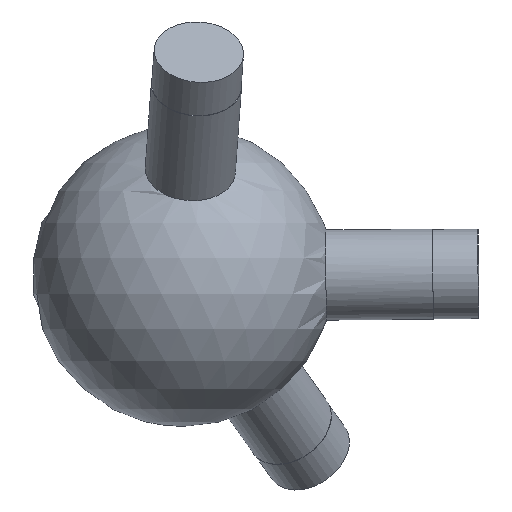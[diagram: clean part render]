
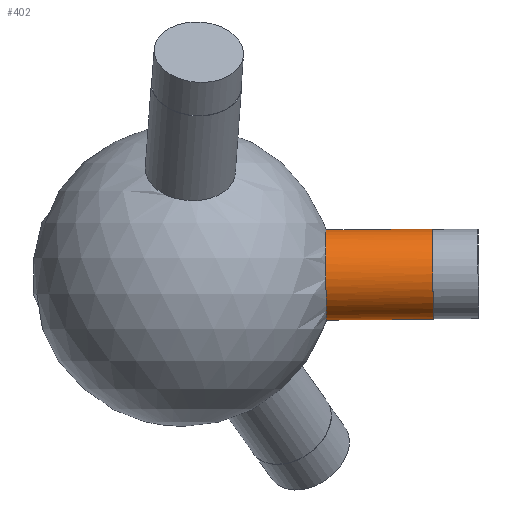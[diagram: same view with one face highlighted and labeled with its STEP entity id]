
A CAD part, front view. The second image highlights one B-rep face of the part: STEP entity #402.
In plain terms, the highlighted cylindrical face has radius 6 mm (diameter 12 mm), a full revolution.
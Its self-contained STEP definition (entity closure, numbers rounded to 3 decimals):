
#22 = VERTEX_POINT('',#23);
#23 = CARTESIAN_POINT('',(19.035,0.,
    6.138));
#33 = SPHERICAL_SURFACE('',#34,20.);
#34 = AXIS2_PLACEMENT_3D('',#35,#36,#37);
#35 = CARTESIAN_POINT('',(0.,0.,0.));
#36 = DIRECTION('',(0.,0.,1.));
#37 = DIRECTION('',(1.,0.,-0.));
#53 = EDGE_CURVE('',#54,#22,#56,.T.);
#54 = VERTEX_POINT('',#55);
#55 = CARTESIAN_POINT('',(19.123,0.,
    -5.859));
#56 = SURFACE_CURVE('',#57,(#62,#96),.PCURVE_S1.);
#57 = CIRCLE('',#58,6.);
#58 = AXIS2_PLACEMENT_3D('',#59,#60,#61);
#59 = CARTESIAN_POINT('',(19.078,-0.128,0.14
    ));
#60 = DIRECTION('',(1.,-0.007,
    0.007));
#61 = DIRECTION('',(-0.007,0.,
    1.));
#62 = PCURVE('',#33,#63);
#63 = DEFINITIONAL_REPRESENTATION('',(#64),#95);
#64 = B_SPLINE_CURVE_WITH_KNOTS('',8,(#65,#66,#67,#68,#69,#70,#71,#72,
    #73,#74,#75,#76,#77,#78,#79,#80,#81,#82,#83,#84,#85,#86,#87,#88,#89,
    #90,#91,#92,#93,#94),.UNSPECIFIED.,.F.,.F.,(9,7,7,7,9),(
    3.163,3.938,5.1,5.681,
    6.262),.UNSPECIFIED.);
#65 = CARTESIAN_POINT('',(0.,-0.297));
#66 = CARTESIAN_POINT('',(0.03,-0.297));
#67 = CARTESIAN_POINT('',(0.061,-0.293));
#68 = CARTESIAN_POINT('',(0.09,-0.285));
#69 = CARTESIAN_POINT('',(0.119,-0.275));
#70 = CARTESIAN_POINT('',(0.146,-0.261));
#71 = CARTESIAN_POINT('',(0.171,-0.244));
#72 = CARTESIAN_POINT('',(0.194,-0.225));
#73 = CARTESIAN_POINT('',(0.244,-0.172));
#74 = CARTESIAN_POINT('',(0.269,-0.136));
#75 = CARTESIAN_POINT('',(0.288,-0.095));
#76 = CARTESIAN_POINT('',(0.299,-0.052));
#77 = CARTESIAN_POINT('',(0.304,-0.008));
#78 = CARTESIAN_POINT('',(0.302,0.037));
#79 = CARTESIAN_POINT('',(0.293,0.08));
#80 = CARTESIAN_POINT('',(0.269,0.141));
#81 = CARTESIAN_POINT('',(0.259,0.161));
#82 = CARTESIAN_POINT('',(0.248,0.18));
#83 = CARTESIAN_POINT('',(0.235,0.197));
#84 = CARTESIAN_POINT('',(0.221,0.214));
#85 = CARTESIAN_POINT('',(0.205,0.23));
#86 = CARTESIAN_POINT('',(0.188,0.244));
#87 = CARTESIAN_POINT('',(0.152,0.27));
#88 = CARTESIAN_POINT('',(0.132,0.281));
#89 = CARTESIAN_POINT('',(0.112,0.291));
#90 = CARTESIAN_POINT('',(0.09,0.299));
#91 = CARTESIAN_POINT('',(0.068,0.305));
#92 = CARTESIAN_POINT('',(0.046,0.309));
#93 = CARTESIAN_POINT('',(0.023,0.311));
#94 = CARTESIAN_POINT('',(0.,0.312));
#95 = ( GEOMETRIC_REPRESENTATION_CONTEXT(2) 
PARAMETRIC_REPRESENTATION_CONTEXT() REPRESENTATION_CONTEXT('2D SPACE',''
  ) );
#96 = PCURVE('',#97,#102);
#97 = CYLINDRICAL_SURFACE('',#98,6.);
#98 = AXIS2_PLACEMENT_3D('',#99,#100,#101);
#99 = CARTESIAN_POINT('',(0.,0.,0.));
#100 = DIRECTION('',(1.,-0.007,
    0.007));
#101 = DIRECTION('',(-0.007,0.,
    1.));
#102 = DEFINITIONAL_REPRESENTATION('',(#103),#107);
#103 = LINE('',#104,#105);
#104 = CARTESIAN_POINT('',(0.,19.079));
#105 = VECTOR('',#106,1.);
#106 = DIRECTION('',(1.,0.));
#107 = ( GEOMETRIC_REPRESENTATION_CONTEXT(2) 
PARAMETRIC_REPRESENTATION_CONTEXT() REPRESENTATION_CONTEXT('2D SPACE',''
  ) );
#134 = EDGE_CURVE('',#135,#54,#137,.T.);
#135 = VERTEX_POINT('',#136);
#136 = CARTESIAN_POINT('',(19.034,-0.128,6.14
    ));
#137 = SURFACE_CURVE('',#138,(#143,#177),.PCURVE_S1.);
#138 = CIRCLE('',#139,6.);
#139 = AXIS2_PLACEMENT_3D('',#140,#141,#142);
#140 = CARTESIAN_POINT('',(19.078,-0.128,
    0.14));
#141 = DIRECTION('',(1.,-0.007,
    0.007));
#142 = DIRECTION('',(-0.007,0.,
    1.));
#143 = PCURVE('',#33,#144);
#144 = DEFINITIONAL_REPRESENTATION('',(#145),#176);
#145 = B_SPLINE_CURVE_WITH_KNOTS('',8,(#146,#147,#148,#149,#150,#151,
    #152,#153,#154,#155,#156,#157,#158,#159,#160,#161,#162,#163,#164,
    #165,#166,#167,#168,#169,#170,#171,#172,#173,#174,#175),
  .UNSPECIFIED.,.F.,.F.,(9,7,7,7,9),(0.,0.791,1.977,
    2.57,3.163),.UNSPECIFIED.);
#146 = CARTESIAN_POINT('',(6.276,0.312));
#147 = CARTESIAN_POINT('',(6.245,0.312));
#148 = CARTESIAN_POINT('',(6.214,0.308));
#149 = CARTESIAN_POINT('',(6.184,0.301));
#150 = CARTESIAN_POINT('',(6.154,0.291));
#151 = CARTESIAN_POINT('',(6.126,0.277));
#152 = CARTESIAN_POINT('',(6.1,0.261));
#153 = CARTESIAN_POINT('',(6.077,0.241));
#154 = CARTESIAN_POINT('',(6.025,0.187));
#155 = CARTESIAN_POINT('',(6.,0.15));
#156 = CARTESIAN_POINT('',(5.981,0.108));
#157 = CARTESIAN_POINT('',(5.969,0.064));
#158 = CARTESIAN_POINT('',(5.965,0.019));
#159 = CARTESIAN_POINT('',(5.968,-0.027));
#160 = CARTESIAN_POINT('',(5.978,-0.071));
#161 = CARTESIAN_POINT('',(6.004,-0.132));
#162 = CARTESIAN_POINT('',(6.014,-0.152));
#163 = CARTESIAN_POINT('',(6.026,-0.171));
#164 = CARTESIAN_POINT('',(6.04,-0.189));
#165 = CARTESIAN_POINT('',(6.055,-0.206));
#166 = CARTESIAN_POINT('',(6.071,-0.221));
#167 = CARTESIAN_POINT('',(6.089,-0.235));
#168 = CARTESIAN_POINT('',(6.127,-0.26));
#169 = CARTESIAN_POINT('',(6.148,-0.271));
#170 = CARTESIAN_POINT('',(6.169,-0.28));
#171 = CARTESIAN_POINT('',(6.191,-0.287));
#172 = CARTESIAN_POINT('',(6.214,-0.293));
#173 = CARTESIAN_POINT('',(6.237,-0.296));
#174 = CARTESIAN_POINT('',(6.26,-0.298));
#175 = CARTESIAN_POINT('',(6.283,-0.297));
#176 = ( GEOMETRIC_REPRESENTATION_CONTEXT(2) 
PARAMETRIC_REPRESENTATION_CONTEXT() REPRESENTATION_CONTEXT('2D SPACE',''
  ) );
#177 = PCURVE('',#97,#178);
#178 = DEFINITIONAL_REPRESENTATION('',(#179),#183);
#179 = LINE('',#180,#181);
#180 = CARTESIAN_POINT('',(0.,19.079));
#181 = VECTOR('',#182,1.);
#182 = DIRECTION('',(1.,0.));
#183 = ( GEOMETRIC_REPRESENTATION_CONTEXT(2) 
PARAMETRIC_REPRESENTATION_CONTEXT() REPRESENTATION_CONTEXT('2D SPACE',''
  ) );
#185 = EDGE_CURVE('',#22,#135,#186,.T.);
#186 = SURFACE_CURVE('',#187,(#192,#202),.PCURVE_S1.);
#187 = CIRCLE('',#188,6.);
#188 = AXIS2_PLACEMENT_3D('',#189,#190,#191);
#189 = CARTESIAN_POINT('',(19.078,-0.128,
    0.14));
#190 = DIRECTION('',(1.,-0.007,
    0.007));
#191 = DIRECTION('',(-0.007,0.,
    1.));
#192 = PCURVE('',#33,#193);
#193 = DEFINITIONAL_REPRESENTATION('',(#194),#201);
#194 = B_SPLINE_CURVE_WITH_KNOTS('',5,(#195,#196,#197,#198,#199,#200),
  .UNSPECIFIED.,.F.,.F.,(6,6),(6.262,6.283),
  .PIECEWISE_BEZIER_KNOTS.);
#195 = CARTESIAN_POINT('',(6.283,0.312));
#196 = CARTESIAN_POINT('',(6.282,0.312));
#197 = CARTESIAN_POINT('',(6.281,0.312));
#198 = CARTESIAN_POINT('',(6.279,0.312));
#199 = CARTESIAN_POINT('',(6.278,0.312));
#200 = CARTESIAN_POINT('',(6.276,0.312));
#201 = ( GEOMETRIC_REPRESENTATION_CONTEXT(2) 
PARAMETRIC_REPRESENTATION_CONTEXT() REPRESENTATION_CONTEXT('2D SPACE',''
  ) );
#202 = PCURVE('',#97,#203);
#203 = DEFINITIONAL_REPRESENTATION('',(#204),#208);
#204 = LINE('',#205,#206);
#205 = CARTESIAN_POINT('',(0.,19.079));
#206 = VECTOR('',#207,1.);
#207 = DIRECTION('',(1.,0.));
#208 = ( GEOMETRIC_REPRESENTATION_CONTEXT(2) 
PARAMETRIC_REPRESENTATION_CONTEXT() REPRESENTATION_CONTEXT('2D SPACE',''
  ) );
#402 = ADVANCED_FACE('',(#403),#97,.T.);
#403 = FACE_BOUND('',#404,.T.);
#404 = EDGE_LOOP('',(#405,#428,#455,#456,#457,#458));
#405 = ORIENTED_EDGE('',*,*,#406,.T.);
#406 = EDGE_CURVE('',#135,#407,#409,.T.);
#407 = VERTEX_POINT('',#408);
#408 = CARTESIAN_POINT('',(33.252,-0.223,
    6.244));
#409 = SEAM_CURVE('',#410,(#414,#421),.PCURVE_S1.);
#410 = LINE('',#411,#412);
#411 = CARTESIAN_POINT('',(-0.044,0.,
    6.));
#412 = VECTOR('',#413,1.);
#413 = DIRECTION('',(1.,-0.007,
    0.007));
#414 = PCURVE('',#97,#415);
#415 = DEFINITIONAL_REPRESENTATION('',(#416),#420);
#416 = LINE('',#417,#418);
#417 = CARTESIAN_POINT('',(6.283,-0.));
#418 = VECTOR('',#419,1.);
#419 = DIRECTION('',(0.,1.));
#420 = ( GEOMETRIC_REPRESENTATION_CONTEXT(2) 
PARAMETRIC_REPRESENTATION_CONTEXT() REPRESENTATION_CONTEXT('2D SPACE',''
  ) );
#421 = PCURVE('',#97,#422);
#422 = DEFINITIONAL_REPRESENTATION('',(#423),#427);
#423 = LINE('',#424,#425);
#424 = CARTESIAN_POINT('',(0.,-0.));
#425 = VECTOR('',#426,1.);
#426 = DIRECTION('',(0.,1.));
#427 = ( GEOMETRIC_REPRESENTATION_CONTEXT(2) 
PARAMETRIC_REPRESENTATION_CONTEXT() REPRESENTATION_CONTEXT('2D SPACE',''
  ) );
#428 = ORIENTED_EDGE('',*,*,#429,.F.);
#429 = EDGE_CURVE('',#407,#407,#430,.T.);
#430 = SURFACE_CURVE('',#431,(#436,#443),.PCURVE_S1.);
#431 = CIRCLE('',#432,6.);
#432 = AXIS2_PLACEMENT_3D('',#433,#434,#435);
#433 = CARTESIAN_POINT('',(33.296,-0.223,
    0.244));
#434 = DIRECTION('',(1.,-0.007,
    0.007));
#435 = DIRECTION('',(-0.007,0.,
    1.));
#436 = PCURVE('',#97,#437);
#437 = DEFINITIONAL_REPRESENTATION('',(#438),#442);
#438 = LINE('',#439,#440);
#439 = CARTESIAN_POINT('',(0.,33.297));
#440 = VECTOR('',#441,1.);
#441 = DIRECTION('',(1.,0.));
#442 = ( GEOMETRIC_REPRESENTATION_CONTEXT(2) 
PARAMETRIC_REPRESENTATION_CONTEXT() REPRESENTATION_CONTEXT('2D SPACE',''
  ) );
#443 = PCURVE('',#444,#449);
#444 = PLANE('',#445);
#445 = AXIS2_PLACEMENT_3D('',#446,#447,#448);
#446 = CARTESIAN_POINT('',(33.296,-0.223,
    0.244));
#447 = DIRECTION('',(1.,-0.007,
    0.007));
#448 = DIRECTION('',(-0.007,0.,
    1.));
#449 = DEFINITIONAL_REPRESENTATION('',(#450),#454);
#450 = CIRCLE('',#451,6.);
#451 = AXIS2_PLACEMENT_2D('',#452,#453);
#452 = CARTESIAN_POINT('',(0.,0.));
#453 = DIRECTION('',(1.,0.));
#454 = ( GEOMETRIC_REPRESENTATION_CONTEXT(2) 
PARAMETRIC_REPRESENTATION_CONTEXT() REPRESENTATION_CONTEXT('2D SPACE',''
  ) );
#455 = ORIENTED_EDGE('',*,*,#406,.F.);
#456 = ORIENTED_EDGE('',*,*,#134,.T.);
#457 = ORIENTED_EDGE('',*,*,#53,.T.);
#458 = ORIENTED_EDGE('',*,*,#185,.T.);
